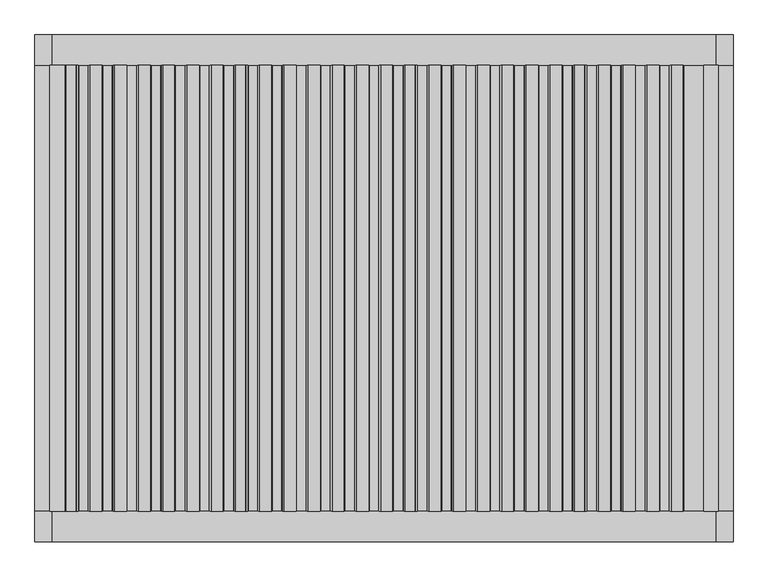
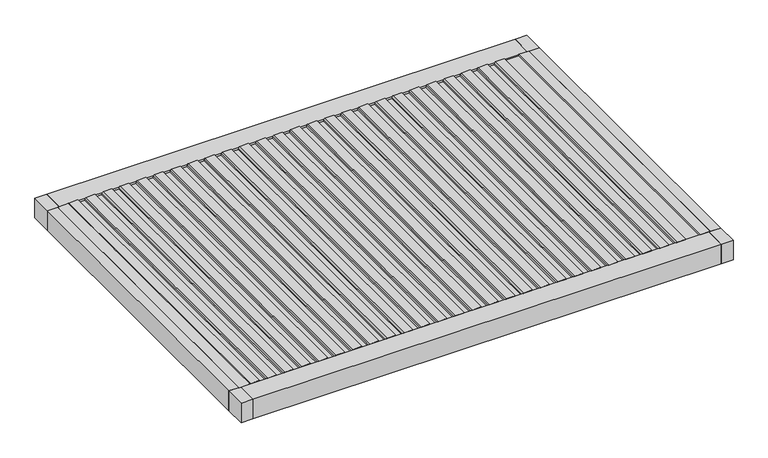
"""IFC4 building model written with IfcOpenShell, lengths in millimetres: proxy geometry, Renson_Aero_Skye_Patio covers : Aero Skye - Single."""

from ifc_helpers import new_model, si_unit, point, frame, frame_2d, origin, place, context, project, spatial, polyline, circle_curve, trimmed, segment, composite_curve, outline, extrude, source, transform, mapped, element, save


def generic_models_3aa09e42(model_context):
    return source(origin(), model_context, "Body", "SweptSolid", [
        extrude(outline(composite_curve([segment(polyline([(-41.65, 2416.1750559), (-13.98802, 2418.5951656), (-12.6029636, 2447.430416), (6.8911096, 2443.9930849), (1.6075693, 2333.9959701)]), True, "CONTINUOUS"), segment(trimmed(circle_curve(frame_2d((-13.3751565, 2334.715642)), 15.0), [point((1.6075693, 2333.9959701))], [point((-10.7704338, 2319.9435257))], False, "CARTESIAN"), True, "CONTINUOUS"), segment(polyline([(-10.7704338, 2319.9435257), (-30.0, 2316.5528344), (-30.0, 2228.8170584), (-12.9211763, 2225.8056009), (-13.6549818, 2210.5286305), (-41.65, 2208.0793837), (-41.65, 2416.1750559)]), True, "CONTINUOUS")], self_intersect=False)), frame((0.0, -1982.0, 0.0), z_axis=(0.0, 1.0, 0.0), x_axis=(0.0, 0.0, 1.0)), (0.0, 0.0, 1.0), 3964.0),
        extrude(outline(composite_curve([segment(polyline([(-41.65, 2201.1681408), (-13.98802, 2203.5882505), (-12.6029636, 2232.423501), (6.8911096, 2228.9861699), (1.6075693, 2118.989055)]), True, "CONTINUOUS"), segment(trimmed(circle_curve(frame_2d((-13.3751565, 2119.708727)), 15.0), [point((1.6075693, 2118.989055))], [point((-10.7704338, 2104.9366107))], False, "CARTESIAN"), True, "CONTINUOUS"), segment(polyline([(-10.7704338, 2104.9366107), (-30.0, 2101.5459193), (-30.0, 2013.8101433), (-12.9211763, 2010.7986859), (-13.6549818, 1995.5217154), (-41.65, 1993.0724687), (-41.65, 2201.1681408)]), True, "CONTINUOUS")], self_intersect=False)), frame((0.0, -1982.0, 0.0), z_axis=(0.0, 1.0, 0.0), x_axis=(0.0, 0.0, 1.0)), (0.0, 0.0, 1.0), 3964.0),
        extrude(outline(composite_curve([segment(polyline([(-41.65, 1986.1612258), (-13.98802, 1988.5813354), (-12.6029636, 2017.4165859), (6.8911096, 2013.9792548), (1.6075693, 1903.98214)]), True, "CONTINUOUS"), segment(trimmed(circle_curve(frame_2d((-13.3751565, 1904.7018119)), 15.0), [point((1.6075693, 1903.98214))], [point((-10.7704338, 1889.9296956))], False, "CARTESIAN"), True, "CONTINUOUS"), segment(polyline([(-10.7704338, 1889.9296956), (-30.0, 1886.5390043), (-30.0, 1798.8032282), (-12.9211763, 1795.7917708), (-13.6549818, 1780.5148003), (-41.65, 1778.0655536), (-41.65, 1986.1612258)]), True, "CONTINUOUS")], self_intersect=False)), frame((0.0, -1982.0, 0.0), z_axis=(0.0, 1.0, 0.0), x_axis=(0.0, 0.0, 1.0)), (0.0, 0.0, 1.0), 3964.0),
        extrude(outline(composite_curve([segment(polyline([(-41.65, 1771.1543107), (-13.98802, 1773.5744204), (-12.6029636, 1802.4096708), (6.8911096, 1798.9723398), (1.6075693, 1688.9752249)]), True, "CONTINUOUS"), segment(trimmed(circle_curve(frame_2d((-13.3751565, 1689.6948968)), 15.0), [point((1.6075693, 1688.9752249))], [point((-10.7704338, 1674.9227805))], False, "CARTESIAN"), True, "CONTINUOUS"), segment(polyline([(-10.7704338, 1674.9227805), (-30.0, 1671.5320892), (-30.0, 1583.7963132), (-12.9211763, 1580.7848558), (-13.6549818, 1565.5078853), (-41.65, 1563.0586386), (-41.65, 1771.1543107)]), True, "CONTINUOUS")], self_intersect=False)), frame((0.0, -1982.0, 0.0), z_axis=(0.0, 1.0, 0.0), x_axis=(0.0, 0.0, 1.0)), (0.0, 0.0, 1.0), 3964.0),
        extrude(outline(composite_curve([segment(polyline([(-41.65, 1556.1473957), (-13.98802, 1558.5675053), (-12.6029636, 1587.4027558), (6.8911096, 1583.9654247), (1.6075693, 1473.9683098)]), True, "CONTINUOUS"), segment(trimmed(circle_curve(frame_2d((-13.3751565, 1474.6879818)), 15.0), [point((1.6075693, 1473.9683098))], [point((-10.7704338, 1459.9158655))], False, "CARTESIAN"), True, "CONTINUOUS"), segment(polyline([(-10.7704338, 1459.9158655), (-30.0, 1456.5251741), (-30.0, 1368.7893981), (-12.9211763, 1365.7779407), (-13.6549818, 1350.5009702), (-41.65, 1348.0517235), (-41.65, 1556.1473957)]), True, "CONTINUOUS")], self_intersect=False)), frame((0.0, -1982.0, 0.0), z_axis=(0.0, 1.0, 0.0), x_axis=(0.0, 0.0, 1.0)), (0.0, 0.0, 1.0), 3964.0),
        extrude(outline(composite_curve([segment(polyline([(-41.65, 1341.1404806), (-13.98802, 1343.5605903), (-12.6029636, 1372.3958407), (6.8911096, 1368.9585096), (1.6075693, 1258.9613948)]), True, "CONTINUOUS"), segment(trimmed(circle_curve(frame_2d((-13.3751565, 1259.6810667)), 15.0), [point((1.6075693, 1258.9613948))], [point((-10.7704338, 1244.9089504))], False, "CARTESIAN"), True, "CONTINUOUS"), segment(polyline([(-10.7704338, 1244.9089504), (-30.0, 1241.5182591), (-30.0, 1153.7824831), (-12.9211763, 1150.7710256), (-13.6549818, 1135.4940552), (-41.65, 1133.0448084), (-41.65, 1341.1404806)]), True, "CONTINUOUS")], self_intersect=False)), frame((0.0, -1982.0, 0.0), z_axis=(0.0, 1.0, 0.0), x_axis=(0.0, 0.0, 1.0)), (0.0, 0.0, 1.0), 3964.0),
        extrude(outline(composite_curve([segment(polyline([(-41.65, 1126.1335655), (-13.98802, 1128.5536752), (-12.6029636, 1157.3889257), (6.8911096, 1153.9515946), (1.6075693, 1043.9544797)]), True, "CONTINUOUS"), segment(trimmed(circle_curve(frame_2d((-13.3751565, 1044.6741517)), 15.0), [point((1.6075693, 1043.9544797))], [point((-10.7704338, 1029.9020354))], False, "CARTESIAN"), True, "CONTINUOUS"), segment(polyline([(-10.7704338, 1029.9020354), (-30.0, 1026.511344), (-30.0, 938.775568), (-12.9211763, 935.7641106), (-13.6549818, 920.4871401), (-41.65, 918.0378934), (-41.65, 1126.1335655)]), True, "CONTINUOUS")], self_intersect=False)), frame((0.0, -1982.0, 0.0), z_axis=(0.0, 1.0, 0.0), x_axis=(0.0, 0.0, 1.0)), (0.0, 0.0, 1.0), 3964.0),
        extrude(outline(composite_curve([segment(polyline([(-41.65, 911.1266505), (-13.98802, 913.5467601), (-12.6029636, 942.3820106), (6.8911096, 938.9446795), (1.6075693, 828.9475647)]), True, "CONTINUOUS"), segment(trimmed(circle_curve(frame_2d((-13.3751565, 829.6672366)), 15.0), [point((1.6075693, 828.9475647))], [point((-10.7704338, 814.8951203))], False, "CARTESIAN"), True, "CONTINUOUS"), segment(polyline([(-10.7704338, 814.8951203), (-30.0, 811.504429), (-30.0, 723.7686529), (-12.9211763, 720.7571955), (-13.6549818, 705.480225), (-41.65, 703.0309783), (-41.65, 911.1266505)]), True, "CONTINUOUS")], self_intersect=False)), frame((0.0, -1982.0, 0.0), z_axis=(0.0, 1.0, 0.0), x_axis=(0.0, 0.0, 1.0)), (0.0, 0.0, 1.0), 3964.0),
        extrude(outline(composite_curve([segment(polyline([(-41.65, 696.1197354), (-13.98802, 698.5398451), (-12.6029636, 727.3750955), (6.8911096, 723.9377645), (1.6075693, 613.9406496)]), True, "CONTINUOUS"), segment(trimmed(circle_curve(frame_2d((-13.3751565, 614.6603215)), 15.0), [point((1.6075693, 613.9406496))], [point((-10.7704338, 599.8882052))], False, "CARTESIAN"), True, "CONTINUOUS"), segment(polyline([(-10.7704338, 599.8882052), (-30.0, 596.4975139), (-30.0, 508.7617379), (-12.9211763, 505.7502805), (-13.6549818, 490.47331), (-41.65, 488.0240633), (-41.65, 696.1197354)]), True, "CONTINUOUS")], self_intersect=False)), frame((0.0, -1982.0, 0.0), z_axis=(0.0, 1.0, 0.0), x_axis=(0.0, 0.0, 1.0)), (0.0, 0.0, 1.0), 3964.0),
        extrude(outline(composite_curve([segment(polyline([(-41.65, 481.1128204), (-13.98802, 483.53293), (-12.6029636, 512.3681805), (6.8911096, 508.9308494), (1.6075693, 398.9337345)]), True, "CONTINUOUS"), segment(trimmed(circle_curve(frame_2d((-13.3751565, 399.6534065)), 15.0), [point((1.6075693, 398.9337345))], [point((-10.7704338, 384.8812902))], False, "CARTESIAN"), True, "CONTINUOUS"), segment(polyline([(-10.7704338, 384.8812902), (-30.0, 381.4905988), (-30.0, 293.7548228), (-12.9211763, 290.7433654), (-13.6549818, 275.4663949), (-41.65, 273.0171482), (-41.65, 481.1128204)]), True, "CONTINUOUS")], self_intersect=False)), frame((0.0, -1982.0, 0.0), z_axis=(0.0, 1.0, 0.0), x_axis=(0.0, 0.0, 1.0)), (0.0, 0.0, 1.0), 3964.0),
        extrude(outline(composite_curve([segment(polyline([(-41.65, 266.1059053), (-13.98802, 268.526015), (-12.6029636, 297.3612654), (6.8911096, 293.9239343), (1.6075693, 183.9268195)]), True, "CONTINUOUS"), segment(trimmed(circle_curve(frame_2d((-13.3751565, 184.6464914)), 15.0), [point((1.6075693, 183.9268195))], [point((-10.7704338, 169.8743751))], False, "CARTESIAN"), True, "CONTINUOUS"), segment(polyline([(-10.7704338, 169.8743751), (-30.0, 166.4836838), (-30.0, 78.7479077), (-12.9211763, 75.7364503), (-13.6549818, 60.4594799), (-41.65, 58.0102331), (-41.65, 266.1059053)]), True, "CONTINUOUS")], self_intersect=False)), frame((0.0, -1982.0, 0.0), z_axis=(0.0, 1.0, 0.0), x_axis=(0.0, 0.0, 1.0)), (0.0, 0.0, 1.0), 3964.0),
        extrude(outline(composite_curve([segment(polyline([(-41.65, 51.0989902), (-13.98802, 53.5190999), (-12.6029636, 82.3543504), (6.8911096, 78.9170193), (1.6075693, -31.0800956)]), True, "CONTINUOUS"), segment(trimmed(circle_curve(frame_2d((-13.3751565, -30.3604236)), 15.0), [point((1.6075693, -31.0800956))], [point((-10.7704338, -45.1325399))], False, "CARTESIAN"), True, "CONTINUOUS"), segment(polyline([(-10.7704338, -45.1325399), (-30.0, -48.5232313), (-30.0, -136.2590073), (-12.9211763, -139.2704647), (-13.6549818, -154.5474352), (-41.65, -156.9966819), (-41.65, 51.0989902)]), True, "CONTINUOUS")], self_intersect=False)), frame((0.0, -1982.0, 0.0), z_axis=(0.0, 1.0, 0.0), x_axis=(0.0, 0.0, 1.0)), (0.0, 0.0, 1.0), 3964.0),
        extrude(outline(composite_curve([segment(polyline([(-41.65, -163.9079248), (-13.98802, -161.4878152), (-12.6029636, -132.6525647), (6.8911096, -136.0898958), (1.6075693, -246.0870106)]), True, "CONTINUOUS"), segment(trimmed(circle_curve(frame_2d((-13.3751565, -245.3673387)), 15.0), [point((1.6075693, -246.0870106))], [point((-10.7704338, -260.139455))], False, "CARTESIAN"), True, "CONTINUOUS"), segment(polyline([(-10.7704338, -260.139455), (-30.0, -263.5301463), (-30.0, -351.2659224), (-12.9211763, -354.2773798), (-13.6549818, -369.5543503), (-41.65, -372.003597), (-41.65, -163.9079248)]), True, "CONTINUOUS")], self_intersect=False)), frame((0.0, -1982.0, 0.0), z_axis=(0.0, 1.0, 0.0), x_axis=(0.0, 0.0, 1.0)), (0.0, 0.0, 1.0), 3964.0),
        extrude(outline(composite_curve([segment(polyline([(-41.65, -378.9148399), (-13.98802, -376.4947302), (-12.6029636, -347.6594798), (6.8911096, -351.0968108), (1.6075693, -461.0939257)]), True, "CONTINUOUS"), segment(trimmed(circle_curve(frame_2d((-13.3751565, -460.3742538)), 15.0), [point((1.6075693, -461.0939257))], [point((-10.7704338, -475.1463701))], False, "CARTESIAN"), True, "CONTINUOUS"), segment(polyline([(-10.7704338, -475.1463701), (-30.0, -478.5370614), (-30.0, -566.2728374), (-12.9211763, -569.2842948), (-13.6549818, -584.5612653), (-41.65, -587.010512), (-41.65, -378.9148399)]), True, "CONTINUOUS")], self_intersect=False)), frame((0.0, -1982.0, 0.0), z_axis=(0.0, 1.0, 0.0), x_axis=(0.0, 0.0, 1.0)), (0.0, 0.0, 1.0), 3964.0),
        extrude(outline(composite_curve([segment(polyline([(-41.65, -593.9217549), (-13.98802, -591.5016453), (-12.6029636, -562.6663948), (6.8911096, -566.1037259), (1.6075693, -676.1008408)]), True, "CONTINUOUS"), segment(trimmed(circle_curve(frame_2d((-13.3751565, -675.3811688)), 15.0), [point((1.6075693, -676.1008408))], [point((-10.7704338, -690.1532851))], False, "CARTESIAN"), True, "CONTINUOUS"), segment(polyline([(-10.7704338, -690.1532851), (-30.0, -693.5439765), (-30.0, -781.2797525), (-12.9211763, -784.2912099), (-13.6549818, -799.5681804), (-41.65, -802.0174271), (-41.65, -593.9217549)]), True, "CONTINUOUS")], self_intersect=False)), frame((0.0, -1982.0, 0.0), z_axis=(0.0, 1.0, 0.0), x_axis=(0.0, 0.0, 1.0)), (0.0, 0.0, 1.0), 3964.0),
        extrude(outline(composite_curve([segment(polyline([(-41.65, -808.92867), (-13.98802, -806.5085603), (-12.6029636, -777.6733099), (6.8911096, -781.110641), (1.6075693, -891.1077558)]), True, "CONTINUOUS"), segment(trimmed(circle_curve(frame_2d((-13.3751565, -890.3880839)), 15.0), [point((1.6075693, -891.1077558))], [point((-10.7704338, -905.1602002))], False, "CARTESIAN"), True, "CONTINUOUS"), segment(polyline([(-10.7704338, -905.1602002), (-30.0, -908.5508915), (-30.0, -996.2866676), (-12.9211763, -999.298125), (-13.6549818, -1014.5750954), (-41.65, -1017.0243422), (-41.65, -808.92867)]), True, "CONTINUOUS")], self_intersect=False)), frame((0.0, -1982.0, 0.0), z_axis=(0.0, 1.0, 0.0), x_axis=(0.0, 0.0, 1.0)), (0.0, 0.0, 1.0), 3964.0),
        extrude(outline(composite_curve([segment(polyline([(-41.65, -1023.9355851), (-13.98802, -1021.5154754), (-12.6029636, -992.6802249), (6.8911096, -996.117556), (1.6075693, -1106.1146709)]), True, "CONTINUOUS"), segment(trimmed(circle_curve(frame_2d((-13.3751565, -1105.3949989)), 15.0), [point((1.6075693, -1106.1146709))], [point((-10.7704338, -1120.1671152))], False, "CARTESIAN"), True, "CONTINUOUS"), segment(polyline([(-10.7704338, -1120.1671152), (-30.0, -1123.5578066), (-30.0, -1211.2935826), (-12.9211763, -1214.30504), (-13.6549818, -1229.5820105), (-41.65, -1232.0312572), (-41.65, -1023.9355851)]), True, "CONTINUOUS")], self_intersect=False)), frame((0.0, -1982.0, 0.0), z_axis=(0.0, 1.0, 0.0), x_axis=(0.0, 0.0, 1.0)), (0.0, 0.0, 1.0), 3964.0),
        extrude(outline(composite_curve([segment(polyline([(-41.65, -1238.9425001), (-13.98802, -1236.5223905), (-12.6029636, -1207.68714), (6.8911096, -1211.1244711), (1.6075693, -1321.1215859)]), True, "CONTINUOUS"), segment(trimmed(circle_curve(frame_2d((-13.3751565, -1320.401914)), 15.0), [point((1.6075693, -1321.1215859))], [point((-10.7704338, -1335.1740303))], False, "CARTESIAN"), True, "CONTINUOUS"), segment(polyline([(-10.7704338, -1335.1740303), (-30.0, -1338.5647216), (-30.0, -1426.3004977), (-12.9211763, -1429.3119551), (-13.6549818, -1444.5889256), (-41.65, -1447.0381723), (-41.65, -1238.9425001)]), True, "CONTINUOUS")], self_intersect=False)), frame((0.0, -1982.0, 0.0), z_axis=(0.0, 1.0, 0.0), x_axis=(0.0, 0.0, 1.0)), (0.0, 0.0, 1.0), 3964.0),
        extrude(outline(composite_curve([segment(polyline([(-41.65, -1453.9494152), (-13.98802, -1451.5293055), (-12.6029636, -1422.6940551), (6.8911096, -1426.1313861), (1.6075693, -1536.128501)]), True, "CONTINUOUS"), segment(trimmed(circle_curve(frame_2d((-13.3751565, -1535.4088291)), 15.0), [point((1.6075693, -1536.128501))], [point((-10.7704338, -1550.1809454))], False, "CARTESIAN"), True, "CONTINUOUS"), segment(polyline([(-10.7704338, -1550.1809454), (-30.0, -1553.5716367), (-30.0, -1641.3074127), (-12.9211763, -1644.3188701), (-13.6549818, -1659.5958406), (-41.65, -1662.0450873), (-41.65, -1453.9494152)]), True, "CONTINUOUS")], self_intersect=False)), frame((0.0, -1982.0, 0.0), z_axis=(0.0, 1.0, 0.0), x_axis=(0.0, 0.0, 1.0)), (0.0, 0.0, 1.0), 3964.0),
        extrude(outline(composite_curve([segment(polyline([(-41.65, -1668.9563302), (-13.98802, -1666.5362206), (-12.6029636, -1637.7009701), (6.8911096, -1641.1383012), (1.6075693, -1751.1354161)]), True, "CONTINUOUS"), segment(trimmed(circle_curve(frame_2d((-13.3751565, -1750.4157441)), 15.0), [point((1.6075693, -1751.1354161))], [point((-10.7704338, -1765.1878604))], False, "CARTESIAN"), True, "CONTINUOUS"), segment(polyline([(-10.7704338, -1765.1878604), (-30.0, -1768.5785518), (-30.0, -1856.3143278), (-12.9211763, -1859.3257852), (-13.6549818, -1874.6027557), (-41.65, -1877.0520024), (-41.65, -1668.9563302)]), True, "CONTINUOUS")], self_intersect=False)), frame((0.0, -1982.0, 0.0), z_axis=(0.0, 1.0, 0.0), x_axis=(0.0, 0.0, 1.0)), (0.0, 0.0, 1.0), 3964.0),
        extrude(outline(composite_curve([segment(polyline([(-41.65, -1883.9632453), (-13.98802, -1881.5431356), (-12.6029636, -1852.7078852), (6.8911096, -1856.1452163), (1.6075693, -1966.1423311)]), True, "CONTINUOUS"), segment(trimmed(circle_curve(frame_2d((-13.3751565, -1965.4226592)), 15.0), [point((1.6075693, -1966.1423311))], [point((-10.7704338, -1980.1947755))], False, "CARTESIAN"), True, "CONTINUOUS"), segment(polyline([(-10.7704338, -1980.1947755), (-30.0, -1983.5854668), (-30.0, -2071.3212429), (-12.9211763, -2074.3327003), (-13.6549818, -2089.6096707), (-41.65, -2092.0589175), (-41.65, -1883.9632453)]), True, "CONTINUOUS")], self_intersect=False)), frame((0.0, -1982.0, 0.0), z_axis=(0.0, 1.0, 0.0), x_axis=(0.0, 0.0, 1.0)), (0.0, 0.0, 1.0), 3964.0),
        extrude(outline(composite_curve([segment(polyline([(-41.65, -2098.9701604), (-13.98802, -2096.5500507), (-12.6029636, -2067.7148002), (6.8911096, -2071.1521313), (1.6075693, -2181.1492462)]), True, "CONTINUOUS"), segment(trimmed(circle_curve(frame_2d((-13.3751565, -2180.4295742)), 15.0), [point((1.6075693, -2181.1492462))], [point((-10.7704338, -2195.2016905))], False, "CARTESIAN"), True, "CONTINUOUS"), segment(polyline([(-10.7704338, -2195.2016905), (-30.0, -2198.5923819), (-30.0, -2286.3281579), (-12.9211763, -2289.3396153), (-13.6549818, -2304.6165858), (-41.65, -2307.0658325), (-41.65, -2098.9701604)]), True, "CONTINUOUS")], self_intersect=False)), frame((0.0, -1982.0, 0.0), z_axis=(0.0, 1.0, 0.0), x_axis=(0.0, 0.0, 1.0)), (0.0, 0.0, 1.0), 3964.0),
        extrude(outline(composite_curve([segment(polyline([(-41.65, -2313.9770754), (-13.98802, -2311.5569658), (-12.6029636, -2282.7217153), (6.8911096, -2286.1590464), (1.6075693, -2396.1561612)]), True, "CONTINUOUS"), segment(trimmed(circle_curve(frame_2d((-13.3751565, -2395.4364893)), 15.0), [point((1.6075693, -2396.1561612))], [point((-10.7704338, -2410.2086056))], False, "CARTESIAN"), True, "CONTINUOUS"), segment(polyline([(-10.7704338, -2410.2086056), (-30.0, -2413.5992969), (-30.0, -2501.335073), (-12.9211763, -2504.3465304), (-13.6549818, -2519.6235009), (-41.65, -2522.0727476), (-41.65, -2313.9770754)]), True, "CONTINUOUS")], self_intersect=False)), frame((0.0, -1982.0, 0.0), z_axis=(0.0, 1.0, 0.0), x_axis=(0.0, 0.0, 1.0)), (0.0, 0.0, 1.0), 3964.0),
        extrude(outline(composite_curve([segment(polyline([(-41.65, -2528.9839905), (-13.98802, -2526.5638808), (-12.6029636, -2497.7286304), (6.8911096, -2501.1659614), (1.6075693, -2611.1630763)]), True, "CONTINUOUS"), segment(trimmed(circle_curve(frame_2d((-13.3751565, -2610.4434044)), 15.0), [point((1.6075693, -2611.1630763))], [point((-10.7704338, -2625.2155207))], False, "CARTESIAN"), True, "CONTINUOUS"), segment(polyline([(-10.7704338, -2625.2155207), (-30.0, -2628.606212), (-30.0, -2716.341988), (-12.9211763, -2719.3534454), (-13.6549818, -2734.6304159), (-41.65, -2737.0796626), (-41.65, -2528.9839905)]), True, "CONTINUOUS")], self_intersect=False)), frame((0.0, -1982.0, 0.0), z_axis=(0.0, 1.0, 0.0), x_axis=(0.0, 0.0, 1.0)), (0.0, 0.0, 1.0), 3964.0),
        extrude(outline(composite_curve([segment(polyline([(-41.65, 2631.181971), (-13.98802, 2633.6020806), (-12.6029636, 2662.4373311), (6.8911096, 2659.0), (1.6075693, 2549.0028852)]), True, "CONTINUOUS"), segment(trimmed(circle_curve(frame_2d((-13.3751565, 2549.7225571)), 15.0), [point((1.6075693, 2549.0028852))], [point((-10.7704338, 2534.9504408))], False, "CARTESIAN"), True, "CONTINUOUS"), segment(polyline([(-10.7704338, 2534.9504408), (-30.0, 2531.5597494), (-30.0, 2443.8239734), (-12.9211763, 2440.812516), (-13.6549818, 2425.5355455), (-41.65, 2423.0862988), (-41.65, 2631.181971)]), True, "CONTINUOUS")], self_intersect=False)), frame((0.0, -1982.0, 0.0), z_axis=(0.0, 1.0, 0.0), x_axis=(0.0, 0.0, 1.0)), (0.0, 0.0, 1.0), 3964.0),
        extrude(outline(composite_curve([segment(polyline([(-41.65, -2743.9909055), (-13.98802, -2741.5707959), (-12.6029636, -2712.7355454), (6.8911096, -2716.1728765), (1.6075693, -2826.1699914)]), True, "CONTINUOUS"), segment(trimmed(circle_curve(frame_2d((-13.3751565, -2825.4503194)), 15.0), [point((1.6075693, -2826.1699914))], [point((-10.7704338, -2840.2224357))], False, "CARTESIAN"), True, "CONTINUOUS"), segment(polyline([(-10.7704338, -2840.2224357), (-30.0, -2843.6131271), (-30.0, -2931.3489031), (-12.9211763, -2934.3603605), (-13.6549818, -2949.637331), (-41.65, -2952.0865777), (-41.65, -2743.9909055)]), True, "CONTINUOUS")], self_intersect=False)), frame((0.0, -1982.0, 0.0), z_axis=(0.0, 1.0, 0.0), x_axis=(0.0, 0.0, 1.0)), (0.0, 0.0, 1.0), 3964.0),
        extrude(outline(polyline([(-63.35, 2969.0), (0.0, 2969.0), (0.0, 2839.5), (-20.0, 2839.5), (-20.0, 2659.0), (-44.0, 2659.0), (-44.0, 2809.0), (-63.35, 2809.0), (-63.35, 2969.0)])), frame((0.0, -1982.0, 0.0), z_axis=(0.0, 1.0, 0.0), x_axis=(0.0, 0.0, 1.0)), (0.0, 0.0, 1.0), 3964.0),
        extrude(outline(polyline([(0.0, -2809.0), (0.0, -2969.0), (-44.0, -2969.0), (-44.0, -2836.3193336), (-10.8283397, -2833.4171894), (-9.655498, -2809.0), (0.0, -2809.0)])), frame((0.0, -1982.0, 0.0), z_axis=(0.0, 1.0, 0.0), x_axis=(0.0, 0.0, 1.0)), (0.0, 0.0, 1.0), 3964.0),
        extrude(outline(polyline([(3100.0, -2250.0), (2950.0, -2250.0), (2950.0, -1982.0), (3100.0, -1982.0), (3100.0, -2250.0)])), frame((0.0, 0.0, -260.0), z_axis=(0.0, 0.0, 1.0), x_axis=(1.0, 0.0, 0.0)), (0.0, 0.0, 1.0), 260.0),
        extrude(outline(polyline([(-3100.0, -2250.0), (-3100.0, -1982.0), (-2950.0, -1982.0), (-2950.0, -2250.0), (-3100.0, -2250.0)])), frame((0.0, 0.0, -260.0), z_axis=(0.0, 0.0, 1.0), x_axis=(1.0, 0.0, 0.0)), (0.0, 0.0, 1.0), 260.0),
        extrude(outline(polyline([(-2950.0, 1982.0), (-3100.0, 1982.0), (-3100.0, 2250.0), (-2950.0, 2250.0), (-2950.0, 1982.0)])), frame((0.0, 0.0, -260.0), z_axis=(0.0, 0.0, 1.0), x_axis=(1.0, 0.0, 0.0)), (0.0, 0.0, 1.0), 260.0),
        extrude(outline(polyline([(3100.0, 2250.0), (3100.0, 1982.0), (2950.0, 1982.0), (2950.0, 2250.0), (3100.0, 2250.0)])), frame((0.0, 0.0, -260.0), z_axis=(0.0, 0.0, 1.0), x_axis=(1.0, 0.0, 0.0)), (0.0, 0.0, 1.0), 260.0),
        extrude(outline(polyline([(-1982.0, -188.0), (-1920.0, -188.0), (-1920.0, -260.0), (-2250.0, -260.0), (-2250.0, 0.0), (-1982.0, 0.0), (-1982.0, -188.0)])), frame((-2950.0, 0.0, 0.0), z_axis=(1.0, 0.0, 0.0), x_axis=(0.0, 1.0, 0.0)), (0.0, 0.0, 1.0), 5900.0),
        extrude(outline(polyline([(1982.0, -188.0), (1982.0, 0.0), (2250.0, 0.0), (2250.0, -260.0), (1920.0, -260.0), (1920.0, -188.0), (1982.0, -188.0)])), frame((-2950.0, 0.0, 0.0), z_axis=(1.0, 0.0, 0.0), x_axis=(0.0, 1.0, 0.0)), (0.0, 0.0, 1.0), 5900.0),
        extrude(outline(polyline([(-64.0, 2969.0), (-64.0, 2950.0), (-260.0, 2950.0), (-260.0, 3100.0), (0.0, 3100.0), (0.0, 2969.0), (-64.0, 2969.0)])), frame((0.0, -1982.0, 0.0), z_axis=(0.0, 1.0, 0.0), x_axis=(0.0, 0.0, 1.0)), (0.0, 0.0, 1.0), 3964.0),
        extrude(outline(polyline([(-64.0, -2969.0), (0.0, -2969.0), (0.0, -3100.0), (-260.0, -3100.0), (-260.0, -2950.0), (-64.0, -2950.0), (-64.0, -2969.0)])), frame((0.0, -1982.0, 0.0), z_axis=(0.0, 1.0, 0.0), x_axis=(0.0, 0.0, 1.0)), (0.0, 0.0, 1.0), 3964.0),
    ])


if __name__ == "__main__":
    model = new_model("IFC4")
    model_context = context("Model", 3, world=origin())
    ifc_project = project(units=[si_unit("LENGTHUNIT", "METRE", prefix="MILLI")], contexts=[model_context])
    site = spatial("IfcSite", under=ifc_project)
    building = spatial("IfcBuilding", under=site)
    placement = place(None, origin())
    generic_models_shape = generic_models_3aa09e42(model_context)
    element("IfcBuildingElementProxy", 1, Name="Renson_Aero_Skye_Patio covers : Aero Skye - Single", ObjectType="Renson_Aero_Skye_Patio covers : Aero Skye - Single", at=placement, inside=building, context=model_context, shape_type="MappedRepresentation", body=[
        mapped(generic_models_shape, transform((0.0, 0.0, 0.0), x_axis=(1.0, 0.0, 0.0), y_axis=(0.0, 1.0, 0.0), z_axis=(0.0, 0.0, 1.0))),
    ])
    save(model, "model.ifc")
